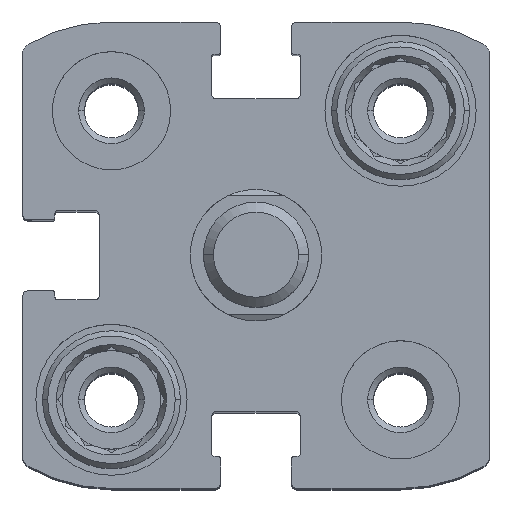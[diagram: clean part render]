
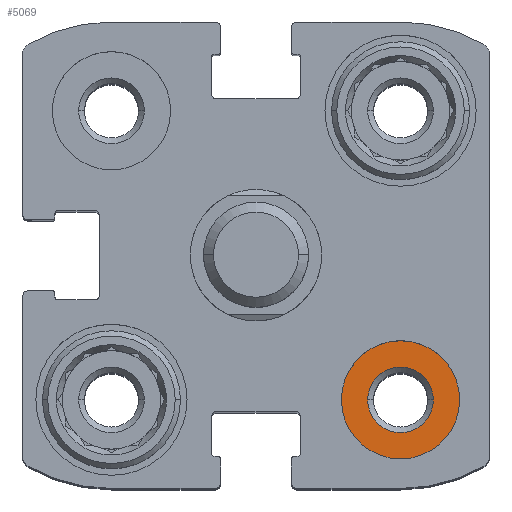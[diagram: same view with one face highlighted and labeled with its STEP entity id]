
A CAD part, top view. The second image highlights one B-rep face of the part: STEP entity #5069.
In plain terms, the highlighted planar face has unit normal (0, 0, 1).
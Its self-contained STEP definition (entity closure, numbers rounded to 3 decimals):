
#761 = CARTESIAN_POINT ( 'NONE',  ( 13.5, -11., -4.8 ) ) ;
#928 = CARTESIAN_POINT ( 'NONE',  ( 11., -11., -4.8 ) ) ;
#1008 = EDGE_LOOP ( 'NONE', ( #11872, #4884 ) ) ;
#1011 = EDGE_CURVE ( 'NONE', #13427, #1170, #4495, .T. ) ;
#1170 = VERTEX_POINT ( 'NONE', #5171 ) ;
#1774 = CARTESIAN_POINT ( 'NONE',  ( 11., -11., -4.8 ) ) ;
#1930 = PLANE ( 'NONE',  #8833 ) ;
#2215 = VERTEX_POINT ( 'NONE', #761 ) ;
#2937 = DIRECTION ( 'NONE',  ( 1., 0., 0. ) ) ;
#3077 = FACE_OUTER_BOUND ( 'NONE', #1008, .T. ) ;
#3805 = DIRECTION ( 'NONE',  ( -1., 0., 0. ) ) ;
#4232 = ORIENTED_EDGE ( 'NONE', *, *, #12013, .T. ) ;
#4495 = CIRCLE ( 'NONE', #7963, 4.5 ) ;
#4778 = AXIS2_PLACEMENT_3D ( 'NONE', #928, #7227, #13333 ) ;
#4884 = ORIENTED_EDGE ( 'NONE', *, *, #6457, .F. ) ;
#5051 = CARTESIAN_POINT ( 'NONE',  ( 11., -6.5, -4.8 ) ) ;
#5069 = ADVANCED_FACE ( 'NONE', ( #3077, #10063 ), #1930, .T. ) ;
#5171 = CARTESIAN_POINT ( 'NONE',  ( 15.5, -11., -4.8 ) ) ;
#5601 = AXIS2_PLACEMENT_3D ( 'NONE', #6418, #8515, #7496 ) ;
#6418 = CARTESIAN_POINT ( 'NONE',  ( 11., -11., -4.8 ) ) ;
#6457 = EDGE_CURVE ( 'NONE', #1170, #13427, #7928, .T. ) ;
#6787 = ORIENTED_EDGE ( 'NONE', *, *, #10646, .T. ) ;
#6842 = DIRECTION ( 'NONE',  ( 0., 0., -1. ) ) ;
#7153 = DIRECTION ( 'NONE',  ( 0., 0., 1. ) ) ;
#7227 = DIRECTION ( 'NONE',  ( 0., 0., -1. ) ) ;
#7289 = AXIS2_PLACEMENT_3D ( 'NONE', #13019, #6842, #8949 ) ;
#7496 = DIRECTION ( 'NONE',  ( -1., 0., 0. ) ) ;
#7870 = DIRECTION ( 'NONE',  ( 0., 0., -1. ) ) ;
#7928 = CIRCLE ( 'NONE', #7289, 4.5 ) ;
#7963 = AXIS2_PLACEMENT_3D ( 'NONE', #1774, #7870, #3805 ) ;
#8424 = EDGE_LOOP ( 'NONE', ( #6787, #4232 ) ) ;
#8515 = DIRECTION ( 'NONE',  ( 0., 0., -1. ) ) ;
#8833 = AXIS2_PLACEMENT_3D ( 'NONE', #5051, #7153, #2937 ) ;
#8949 = DIRECTION ( 'NONE',  ( -1., 0., 0. ) ) ;
#9180 = CARTESIAN_POINT ( 'NONE',  ( 8.5, -11., -4.8 ) ) ;
#9727 = CARTESIAN_POINT ( 'NONE',  ( 6.5, -11., -4.8 ) ) ;
#10063 = FACE_BOUND ( 'NONE', #8424, .T. ) ;
#10627 = CIRCLE ( 'NONE', #4778, 2.5 ) ;
#10646 = EDGE_CURVE ( 'NONE', #2215, #12441, #12101, .T. ) ;
#11872 = ORIENTED_EDGE ( 'NONE', *, *, #1011, .F. ) ;
#12013 = EDGE_CURVE ( 'NONE', #12441, #2215, #10627, .T. ) ;
#12101 = CIRCLE ( 'NONE', #5601, 2.5 ) ;
#12441 = VERTEX_POINT ( 'NONE', #9180 ) ;
#13019 = CARTESIAN_POINT ( 'NONE',  ( 11., -11., -4.8 ) ) ;
#13333 = DIRECTION ( 'NONE',  ( -1., 0., 0. ) ) ;
#13427 = VERTEX_POINT ( 'NONE', #9727 ) ;
